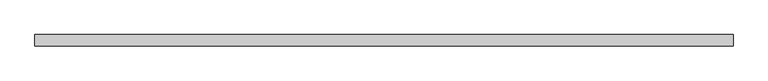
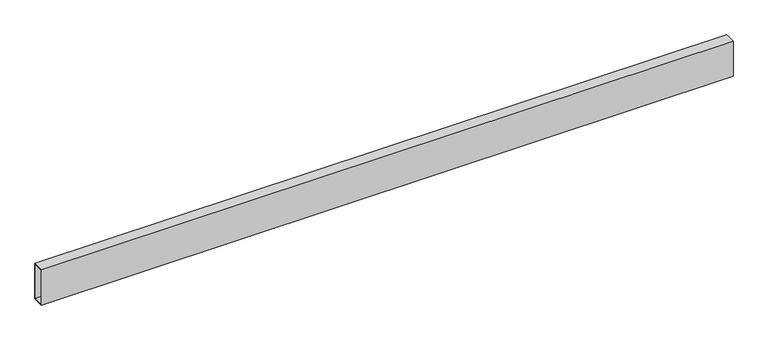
"""IFC4 building model written with IfcOpenShell, lengths in millimetres: proxy geometry, Семейство21 : Семейство21."""

from ifc_helpers import new_model, si_unit, frame, origin, place, context, project, spatial, polyline, outline, extrude, source, transform, mapped, element, save


def generic_models_19370851(model_context):
    return source(origin(), model_context, "Body", "SweptSolid", [
        extrude(outline(polyline([(150.0, 500.0), (150.0, -500.0), (-150.0, -500.0), (-150.0, 500.0), (150.0, 500.0)]), holes=[polyline([(125.0, 475.0), (-125.0, 475.0), (-125.0, -475.0), (125.0, -475.0), (125.0, 475.0)])]), frame((0.0, 0.0, 0.0), z_axis=(1.0, 0.0, 0.0), x_axis=(0.0, 1.0, 0.0)), (0.0, 0.0, 1.0), 18600.0),
    ])


if __name__ == "__main__":
    model = new_model("IFC4")
    model_context = context("Model", 3, world=origin())
    ifc_project = project(units=[si_unit("LENGTHUNIT", "METRE", prefix="MILLI")], contexts=[model_context])
    site = spatial("IfcSite", under=ifc_project)
    building = spatial("IfcBuilding", under=site)
    placement = place(None, origin())
    generic_models_shape = generic_models_19370851(model_context)
    element("IfcBuildingElementProxy", 1, Name="Семейство21 : Семейство21", ObjectType="Семейство21 : Семейство21", at=placement, inside=building, context=model_context, shape_type="MappedRepresentation", body=[
        mapped(generic_models_shape, transform((0.0, 0.0, 0.0), x_axis=(1.0, 0.0, 0.0), y_axis=(0.0, 1.0, 0.0), z_axis=(0.0, 0.0, 1.0))),
    ])
    save(model, "model.ifc")
